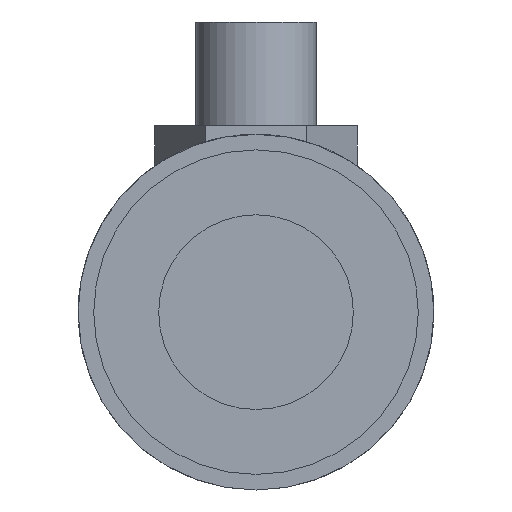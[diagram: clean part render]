
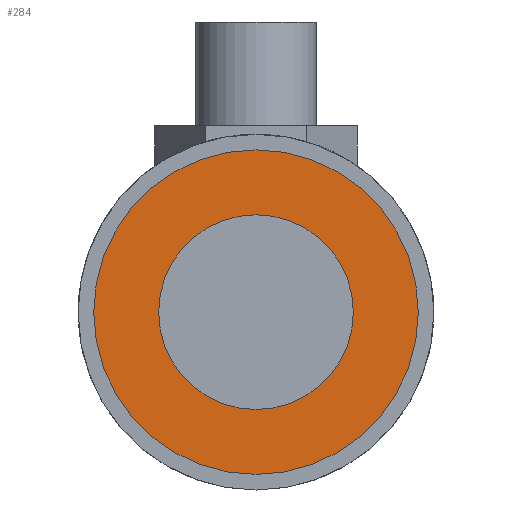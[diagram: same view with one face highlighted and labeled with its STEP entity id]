
A CAD part, front view. The second image highlights one B-rep face of the part: STEP entity #284.
In plain terms, the highlighted planar face has unit normal (0, -1, 0).
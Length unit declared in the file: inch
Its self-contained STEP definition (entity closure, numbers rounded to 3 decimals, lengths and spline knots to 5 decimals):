
#27 = FACE_OUTER_BOUND ( 'NONE', #859, .T. ) ;
#36 = FACE_BOUND ( 'NONE', #854, .T. ) ;
#233 = CIRCLE ( 'NONE', #1038, 0.375 ) ;
#284 = ADVANCED_FACE ( 'NONE', ( #36, #27 ), #463, .T. ) ;
#305 = VERTEX_POINT ( 'NONE', #481 ) ;
#306 = VERTEX_POINT ( 'NONE', #487 ) ;
#307 = VERTEX_POINT ( 'NONE', #491 ) ;
#309 = VERTEX_POINT ( 'NONE', #473 ) ;
#439 = DIRECTION ( 'NONE',  ( 0., 0., -1. ) ) ;
#443 = CARTESIAN_POINT ( 'NONE',  ( 0., -0.01, -1.51257 ) ) ;
#454 = DIRECTION ( 'NONE',  ( 0., -1., 0. ) ) ;
#463 = PLANE ( 'NONE',  #1037 ) ;
#473 = CARTESIAN_POINT ( 'NONE',  ( 0., -0.01, -0.625 ) ) ;
#481 = CARTESIAN_POINT ( 'NONE',  ( 0., -0.01, 0.375 ) ) ;
#487 = CARTESIAN_POINT ( 'NONE',  ( 0., -0.01, 0.625 ) ) ;
#491 = CARTESIAN_POINT ( 'NONE',  ( 0., -0.01, -0.375 ) ) ;
#508 = DIRECTION ( 'NONE',  ( 0., -1., 0. ) ) ;
#545 = DIRECTION ( 'NONE',  ( 0., 0., -1. ) ) ;
#554 = CARTESIAN_POINT ( 'NONE',  ( 0., -0.01, 0. ) ) ;
#556 = DIRECTION ( 'NONE',  ( 0., 0., -1. ) ) ;
#567 = DIRECTION ( 'NONE',  ( 0., -1., 0. ) ) ;
#574 = CARTESIAN_POINT ( 'NONE',  ( 0., -0.01, 0. ) ) ;
#586 = CARTESIAN_POINT ( 'NONE',  ( 0., -0.01, 0. ) ) ;
#587 = DIRECTION ( 'NONE',  ( 0., -1., 0. ) ) ;
#595 = DIRECTION ( 'NONE',  ( 0., 0., -1. ) ) ;
#623 = DIRECTION ( 'NONE',  ( 0., -1., 0. ) ) ;
#629 = CARTESIAN_POINT ( 'NONE',  ( 0., -0.01, 0. ) ) ;
#639 = DIRECTION ( 'NONE',  ( 0., 0., -1. ) ) ;
#777 = ORIENTED_EDGE ( 'NONE', *, *, #931, .F. ) ;
#779 = ORIENTED_EDGE ( 'NONE', *, *, #963, .T. ) ;
#854 = EDGE_LOOP ( 'NONE', ( #777, #874 ) ) ;
#859 = EDGE_LOOP ( 'NONE', ( #872, #779 ) ) ;
#872 = ORIENTED_EDGE ( 'NONE', *, *, #946, .T. ) ;
#874 = ORIENTED_EDGE ( 'NONE', *, *, #940, .F. ) ;
#931 = EDGE_CURVE ( 'NONE', #305, #307, #233, .T. ) ;
#940 = EDGE_CURVE ( 'NONE', #307, #305, #1088, .T. ) ;
#946 = EDGE_CURVE ( 'NONE', #306, #309, #1077, .T. ) ;
#963 = EDGE_CURVE ( 'NONE', #309, #306, #1074, .T. ) ;
#989 = AXIS2_PLACEMENT_3D ( 'NONE', #574, #587, #556 ) ;
#993 = AXIS2_PLACEMENT_3D ( 'NONE', #586, #567, #595 ) ;
#1016 = AXIS2_PLACEMENT_3D ( 'NONE', #629, #623, #639 ) ;
#1037 = AXIS2_PLACEMENT_3D ( 'NONE', #443, #454, #439 ) ;
#1038 = AXIS2_PLACEMENT_3D ( 'NONE', #554, #508, #545 ) ;
#1074 = CIRCLE ( 'NONE', #1016, 0.625 ) ;
#1077 = CIRCLE ( 'NONE', #993, 0.625 ) ;
#1088 = CIRCLE ( 'NONE', #989, 0.375 ) ;
